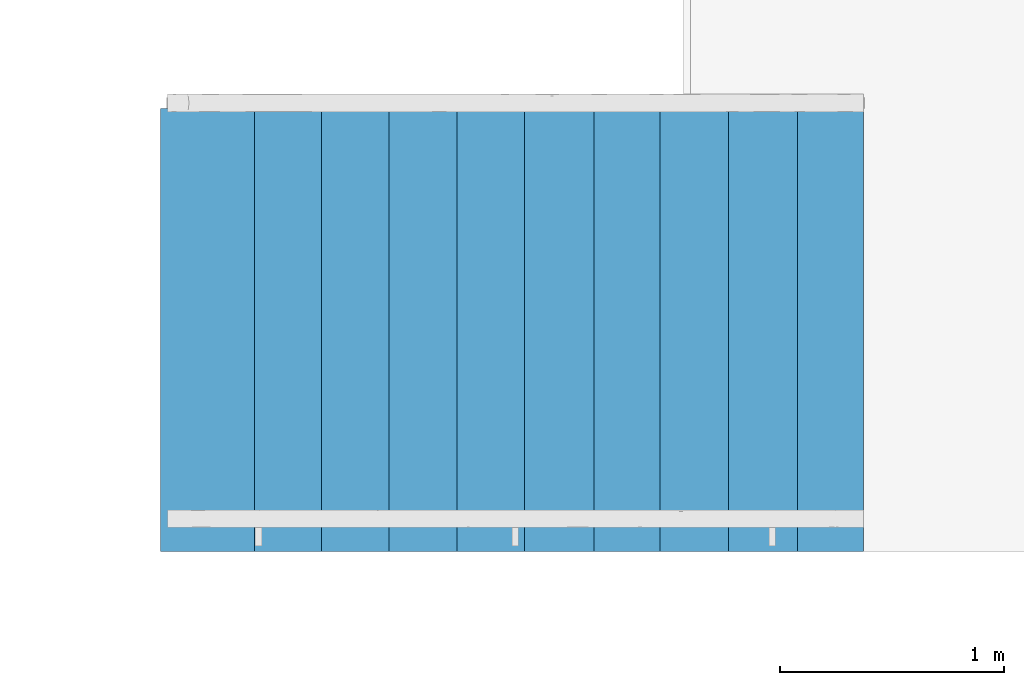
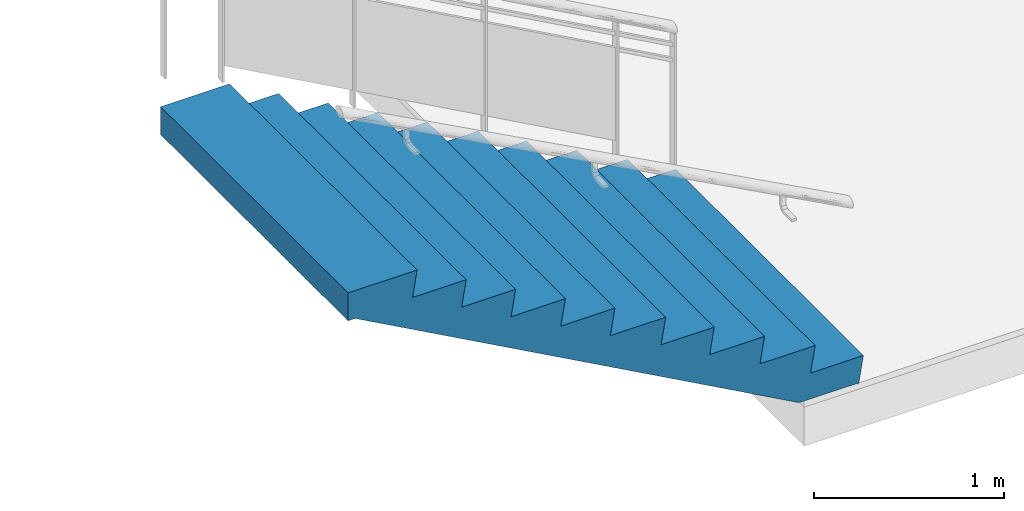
# One storey, part 15 of 19: 1 stair flight, 1 element without a shape of its own.
"""IFC4 building model written with IfcOpenShell, lengths in metres."""

from ifc_helpers import new_model, entity, si_unit, converted_unit, derived_unit, direction, frame, origin, place, context, subcontext, project, spatial, polygons, material, constituent, constituent_set, type_object, element, aggregate, save


model = new_model("IFC4")

# Units and contexts
model_context = context("Model", 3, precision=1e-05, world=origin(), true_north=direction((6.12303176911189e-17, 1.0)))
body_context = subcontext(model_context, "Body", "Model", "MODEL_VIEW")
ifc_project = project(units=[si_unit("LENGTHUNIT", "METRE"), si_unit("AREAUNIT", "SQUARE_METRE"), si_unit("VOLUMEUNIT", "CUBIC_METRE"), converted_unit("PLANEANGLEUNIT", "DEGREE", entity("IfcRatioMeasure", 0.0174532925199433), si_unit("PLANEANGLEUNIT", "RADIAN"), dimensions=[0, 0, 0, 0, 0, 0, 0]), si_unit("MASSUNIT", "GRAM", prefix="KILO"), derived_unit("MASSDENSITYUNIT", [(si_unit("MASSUNIT", "GRAM", prefix="KILO"), 1), (si_unit("LENGTHUNIT", "METRE"), -3)]), derived_unit("MOMENTOFINERTIAUNIT", [(si_unit("LENGTHUNIT", "METRE"), 4)]), si_unit("TIMEUNIT", "SECOND"), si_unit("FREQUENCYUNIT", "HERTZ"), si_unit("THERMODYNAMICTEMPERATUREUNIT", "DEGREE_CELSIUS"), derived_unit("THERMALTRANSMITTANCEUNIT", [(si_unit("MASSUNIT", "GRAM", prefix="KILO"), 1), (si_unit("THERMODYNAMICTEMPERATUREUNIT", "KELVIN"), -1), (si_unit("TIMEUNIT", "SECOND"), -3)]), derived_unit("VOLUMETRICFLOWRATEUNIT", [(si_unit("LENGTHUNIT", "METRE"), 3), (si_unit("TIMEUNIT", "SECOND"), -1)]), si_unit("ELECTRICCURRENTUNIT", "AMPERE"), si_unit("ELECTRICVOLTAGEUNIT", "VOLT"), si_unit("POWERUNIT", "WATT"), si_unit("FORCEUNIT", "NEWTON", prefix="KILO"), si_unit("ILLUMINANCEUNIT", "LUX"), si_unit("LUMINOUSFLUXUNIT", "LUMEN"), si_unit("LUMINOUSINTENSITYUNIT", "CANDELA"), derived_unit("USERDEFINED", [(si_unit("MASSUNIT", "GRAM", prefix="KILO"), -1), (si_unit("LENGTHUNIT", "METRE"), -2), (si_unit("TIMEUNIT", "SECOND"), 3), (si_unit("LUMINOUSFLUXUNIT", "LUMEN"), 1)]), derived_unit("LINEARVELOCITYUNIT", [(si_unit("LENGTHUNIT", "METRE"), 1), (si_unit("TIMEUNIT", "SECOND"), -1)]), si_unit("PRESSUREUNIT", "PASCAL"), derived_unit("USERDEFINED", [(si_unit("LENGTHUNIT", "METRE"), -2), (si_unit("MASSUNIT", "GRAM", prefix="KILO"), 1), (si_unit("TIMEUNIT", "SECOND"), -2)]), derived_unit("LINEARFORCEUNIT", [(si_unit("MASSUNIT", "GRAM", prefix="KILO"), 1), (si_unit("LENGTHUNIT", "METRE"), 1), (si_unit("TIMEUNIT", "SECOND"), -2), (si_unit("LENGTHUNIT", "METRE"), -1)]), derived_unit("PLANARFORCEUNIT", [(si_unit("MASSUNIT", "GRAM", prefix="KILO"), 1), (si_unit("LENGTHUNIT", "METRE"), 1), (si_unit("TIMEUNIT", "SECOND"), -2), (si_unit("LENGTHUNIT", "METRE"), -2)])], contexts=[model_context])

# Site, building, storey
site_placement = place(None, origin())
site = spatial("IfcSite", under=ifc_project, at=site_placement, Name="Default", CompositionType="ELEMENT")
building_placement = place(site_placement, origin())
building = spatial("IfcBuilding", under=site, at=building_placement, Name="HOTEL CONSULAIRE BOULOGNE SUR MER", CompositionType="ELEMENT")
storey_placement = place(building_placement, frame((0.0, 0.0, -4.01003075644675)))
storey = spatial("IfcBuildingStorey", under=building, at=storey_placement, Name="SS2", CompositionType="ELEMENT", Elevation=-4.01003075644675)

# Stair, stair flight
stair_type = type_object("IfcStairType", Name="Escalier coulé sur place:Monobloc 7", PredefinedType="STRAIGHT_RUN_STAIR")
stair_placement = place(storey_placement, origin())
stair = element("IfcStair", 1, at=stair_placement, inside=storey, type_object=stair_type, Name="Escalier coulé sur place:Escalier", ObjectType="Escalier coulé sur place:Monobloc 7", PredefinedType="STRAIGHT_RUN_STAIR")
ifc_material_1 = material(Name="marbre beige")
ifc_constituent_1 = constituent(ifc_material_1, Name="marbre beige", Category="Matériaux")
ifc_material_2 = material(Name="Maçonnerie - Béton", Category="Béton")
ifc_constituent_2 = constituent(ifc_material_2, Name="Maçonnerie - Béton", Category="Matériaux")
ifc_constituent_set = constituent_set(constituents=[ifc_constituent_1, ifc_constituent_2], Name="MaterialConstituentSet")
stair_flight_type = type_object("IfcStairFlightType", Name="Volée monobloc:Profondeur de structure 170 mm 3", PredefinedType="NOTDEFINED")
stair_flight_placement = place(stair_placement, frame((-2.16392711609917, -27.946273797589, 0.0)))
stair_flight = element("IfcStairFlight", 2, at=stair_flight_placement, type_object=stair_flight_type, material=ifc_constituent_set, Name="Escalier coulé sur place:Escalier:447979 Run 1", ObjectType="Volée monobloc:Profondeur de structure 170 mm 3", PredefinedType="NOTDEFINED", context=body_context, shape_type="Tessellation", body=[
    polygons([(3.13509033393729, 4.33146851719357e-15, -0.193340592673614), (3.1350903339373, 1.97551778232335, -0.193340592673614), (2.81132610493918, 1.97551778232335, -0.193340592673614), (2.81132610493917, 0.0, -0.193340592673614), (3.1050903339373, 0.0, -0.203340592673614), (2.81132610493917, 0.0, -0.203340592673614), (2.81132610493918, 1.97551778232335, -0.203340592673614), (3.1050903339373, 1.97551778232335, -0.203340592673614), (3.1050903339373, 0.0, -0.374340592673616), (3.1050903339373, 1.97551778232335, -0.374340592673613)], [[[3, 4, 1, 2]], [[8, 5, 6, 7]], [[1, 4, 6, 5, 9]], [[3, 2, 10, 8, 7]], [[4, 3, 7, 6]], [[8, 10, 9, 5]], [[10, 2, 1, 9]]], closed=True),
    polygons([(2.84132610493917, 4.33146851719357e-15, -0.0266811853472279), (2.84132610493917, 1.97551778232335, -0.0266811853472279), (2.50368446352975, 1.97551778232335, -0.0266811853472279), (2.50368446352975, 0.0, -0.0266811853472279), (2.81132610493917, 0.0, -0.0366811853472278), (2.50368446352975, 0.0, -0.0366811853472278), (2.50368446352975, 1.97551778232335, -0.0366811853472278), (2.81132610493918, 1.97551778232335, -0.0366811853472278), (2.81132610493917, 0.0, -0.20768118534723), (2.81132610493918, 1.97551778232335, -0.207681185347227)], [[[3, 4, 1, 2]], [[8, 5, 6, 7]], [[1, 4, 6, 5, 9]], [[3, 2, 10, 8, 7]], [[4, 3, 7, 6]], [[8, 10, 9, 5]], [[10, 2, 1, 9]]], closed=True),
    polygons([(2.53368446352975, 0.0, 0.139978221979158), (2.53368446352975, 1.97551778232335, 0.139978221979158), (2.19726987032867, 1.97551778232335, 0.139978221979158), (2.19726987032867, 0.0, 0.139978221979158), (2.50368446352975, 0.0, 0.129978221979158), (2.19726987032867, 0.0, 0.129978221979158), (2.19726987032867, 1.97551778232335, 0.129978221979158), (2.50368446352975, 1.97551778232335, 0.129978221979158), (2.50368446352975, 0.0, -0.0410217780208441), (2.50368446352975, 1.97551778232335, -0.0410217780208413)], [[[3, 4, 1, 2]], [[8, 5, 6, 7]], [[1, 4, 6, 5, 9]], [[3, 2, 10, 8, 7]], [[4, 3, 7, 6]], [[8, 10, 9, 5]], [[10, 2, 1, 9]]], closed=True),
    polygons([(2.22726987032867, 0.0, 0.306637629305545), (2.22726987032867, 1.97551778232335, 0.306637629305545), (1.90230911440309, 1.97551778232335, 0.306637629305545), (1.90230911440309, 4.33146851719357e-15, 0.306637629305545), (2.19726987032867, 0.0, 0.296637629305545), (1.90230911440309, 4.33146851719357e-15, 0.296637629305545), (1.90230911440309, 1.97551778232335, 0.296637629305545), (2.19726987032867, 1.97551778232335, 0.296637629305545), (2.19726987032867, 4.33146851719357e-15, 0.125637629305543), (2.19726987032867, 1.97551778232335, 0.125637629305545)], [[[3, 4, 1, 2]], [[8, 5, 6, 7]], [[1, 4, 6, 5, 9]], [[3, 2, 10, 8, 7]], [[4, 3, 7, 6]], [[8, 10, 9, 5]], [[10, 2, 1, 9]]], closed=True),
    polygons([(1.93230911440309, 8.66293703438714e-15, 0.473297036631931), (1.93230911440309, 1.97551778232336, 0.473297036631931), (1.59318936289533, 1.97551778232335, 0.473297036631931), (1.59318936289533, 4.33146851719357e-15, 0.473297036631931), (1.90230911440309, 4.33146851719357e-15, 0.463297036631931), (1.59318936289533, 4.33146851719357e-15, 0.463297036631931), (1.59318936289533, 1.97551778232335, 0.463297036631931), (1.90230911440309, 1.97551778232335, 0.463297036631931), (1.90230911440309, 4.33146851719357e-15, 0.292297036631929), (1.90230911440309, 1.97551778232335, 0.292297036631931)], [[[3, 4, 1, 2]], [[8, 5, 6, 7]], [[1, 4, 6, 5, 9]], [[3, 2, 10, 8, 7]], [[4, 3, 7, 6]], [[8, 10, 9, 5]], [[10, 2, 1, 9]]], closed=True),
    polygons([(1.62318936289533, 8.66293703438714e-15, 0.639956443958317), (1.62318936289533, 1.97551778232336, 0.639956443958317), (1.29199887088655, 1.97551778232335, 0.639956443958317), (1.29199887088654, 4.33146851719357e-15, 0.639956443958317), (1.59318936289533, 4.33146851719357e-15, 0.629956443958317), (1.29199887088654, 4.33146851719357e-15, 0.629956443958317), (1.29199887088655, 1.97551778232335, 0.629956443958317), (1.59318936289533, 1.97551778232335, 0.629956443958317), (1.59318936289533, 4.33146851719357e-15, 0.458956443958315), (1.59318936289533, 1.97551778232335, 0.458956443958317)], [[[3, 4, 1, 2]], [[8, 5, 6, 7]], [[1, 4, 6, 5, 9]], [[3, 2, 10, 8, 7]], [[4, 3, 7, 6]], [[8, 10, 9, 5]], [[10, 2, 1, 9]]], closed=True),
    polygons([(1.32199887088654, 4.33146851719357e-15, 0.806615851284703), (1.32199887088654, 1.97551778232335, 0.806615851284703), (0.989046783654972, 1.97551778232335, 0.806615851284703), (0.989046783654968, 4.33146851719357e-15, 0.806615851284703), (1.29199887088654, 4.33146851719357e-15, 0.796615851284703), (0.989046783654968, 4.33146851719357e-15, 0.796615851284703), (0.989046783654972, 1.97551778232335, 0.796615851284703), (1.29199887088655, 1.97551778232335, 0.796615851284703), (1.29199887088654, 4.33146851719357e-15, 0.625615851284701), (1.29199887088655, 1.97551778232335, 0.625615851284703)], [[[3, 4, 1, 2]], [[8, 5, 6, 7]], [[1, 4, 6, 5, 9]], [[3, 2, 10, 8, 7]], [[4, 3, 7, 6]], [[8, 10, 9, 5]], [[10, 2, 1, 9]]], closed=True),
    polygons([(1.01904678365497, 4.33146851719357e-15, 0.973275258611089), (1.01904678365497, 1.97551778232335, 0.973275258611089), (0.688799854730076, 1.97551778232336, 0.973275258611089), (0.688799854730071, 8.66293703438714e-15, 0.973275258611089), (0.989046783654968, 4.33146851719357e-15, 0.963275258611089), (0.688799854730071, 8.66293703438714e-15, 0.963275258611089), (0.688799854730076, 1.97551778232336, 0.963275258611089), (0.989046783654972, 1.97551778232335, 0.963275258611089), (0.989046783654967, 8.66293703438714e-15, 0.792275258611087), (0.989046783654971, 1.97551778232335, 0.792275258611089)], [[[3, 4, 1, 2]], [[8, 5, 6, 7]], [[1, 4, 6, 5, 9]], [[3, 2, 10, 8, 7]], [[4, 3, 7, 6]], [[8, 10, 9, 5]], [[10, 2, 1, 9]]], closed=True),
    polygons([(0.718799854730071, 1.29944055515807e-14, 1.13993466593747), (0.718799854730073, 1.97551778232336, 1.13993466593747), (0.390000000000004, 1.97551778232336, 1.13993466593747), (0.39, 8.66293703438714e-15, 1.13993466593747), (0.688799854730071, 8.66293703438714e-15, 1.12993466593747), (0.39, 8.66293703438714e-15, 1.12993466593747), (0.390000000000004, 1.97551778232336, 1.12993466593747), (0.688799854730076, 1.97551778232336, 1.12993466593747), (0.688799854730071, 8.66293703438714e-15, 0.958934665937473), (0.688799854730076, 1.97551778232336, 0.958934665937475)], [[[3, 4, 1, 2]], [[8, 5, 6, 7]], [[1, 4, 6, 5, 9]], [[3, 2, 10, 8, 7]], [[4, 3, 7, 6]], [[8, 10, 9, 5]], [[10, 2, 1, 9]]], closed=True),
    polygons([(0.42, 1.29944055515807e-14, 1.30659407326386), (0.420000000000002, 1.97551778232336, 1.30659407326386), (4.33146851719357e-15, 1.97551778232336, 1.30659407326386), (0.0, 8.66293703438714e-15, 1.30659407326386), (0.39, 8.66293703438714e-15, 1.29659407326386), (0.0, 8.66293703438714e-15, 1.29659407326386), (4.33146851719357e-15, 1.97551778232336, 1.29659407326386), (0.390000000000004, 1.97551778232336, 1.29659407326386), (0.39, 8.66293703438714e-15, 1.12559407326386), (0.390000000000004, 1.97551778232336, 1.12559407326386)], [[[3, 4, 1, 2]], [[8, 5, 6, 7]], [[1, 4, 6, 5, 9]], [[3, 2, 10, 8, 7]], [[4, 3, 7, 6]], [[8, 10, 9, 5]], [[10, 2, 1, 9]]], closed=True),
    polygons([(2.81132610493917, 0.0, -0.203340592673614), (3.1050903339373, 0.0, -0.203340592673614), (3.1050903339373, 1.97551778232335, -0.203340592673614), (2.81132610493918, 1.97551778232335, -0.203340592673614), (2.81132610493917, 0.0, -0.36), (3.1050903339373, 0.0, -0.36), (3.1050903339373, 1.97551778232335, -0.36), (2.81132610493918, 1.97551778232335, -0.36), (2.81132610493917, 0.0, -0.0366811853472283), (2.81132610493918, 1.97551778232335, -0.0366811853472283), (2.76761605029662, 1.97551778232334, -0.0366811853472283), (2.50368446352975, 1.97551778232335, -0.0366811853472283), (2.50368446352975, 0.0, -0.0366811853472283), (2.76761605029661, 0.0, -0.0366811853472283), (2.50368446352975, 0.0, -0.228009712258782), (2.74338855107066, 0.0, -0.36), (2.76761605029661, 0.0, -0.36), (2.76761605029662, 1.97551778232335, -0.36), (2.74338855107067, 1.97551778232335, -0.359999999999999), (2.50368446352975, 1.97551778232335, -0.228009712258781), (2.19726987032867, 0.0, 0.129978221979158), (2.50368446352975, 0.0, 0.129978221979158), (2.50368446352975, 1.97551778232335, 0.129978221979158), (2.19726987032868, 1.97551778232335, 0.129978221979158), (2.19726987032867, 0.0, -0.0592860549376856), (2.19726987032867, 1.97551778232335, -0.0592860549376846), (1.90230911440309, 4.33146851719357e-15, 0.296637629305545), (2.19726987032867, 0.0, 0.296637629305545), (2.19726987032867, 1.97551778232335, 0.296637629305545), (1.90230911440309, 1.97551778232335, 0.296637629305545), (1.90230911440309, 4.33146851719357e-15, 0.103130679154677), (1.90230911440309, 1.97551778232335, 0.103130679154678), (1.59318936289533, 4.33146851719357e-15, 0.463297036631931), (1.90230911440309, 4.33146851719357e-15, 0.463297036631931), (1.90230911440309, 1.97551778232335, 0.463297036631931), (1.59318936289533, 1.97551778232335, 0.463297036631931), (1.59318936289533, 4.33146851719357e-15, 0.273343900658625), (1.59318936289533, 1.97551778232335, 0.273343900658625), (1.29199887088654, 4.33146851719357e-15, 0.629956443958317), (1.59318936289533, 4.33146851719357e-15, 0.629956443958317), (1.59318936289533, 1.97551778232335, 0.629956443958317), (1.29199887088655, 1.97551778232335, 0.629956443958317), (1.29199887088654, 4.33146851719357e-15, 0.439190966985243), (1.29199887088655, 1.97551778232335, 0.439190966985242), (0.989046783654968, 4.33146851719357e-15, 0.796615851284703), (1.29199887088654, 4.33146851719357e-15, 0.796615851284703), (1.29199887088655, 1.97551778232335, 0.796615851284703), (0.989046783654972, 1.97551778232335, 0.796615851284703), (0.989046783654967, 4.33146851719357e-15, 0.606008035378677), (0.989046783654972, 1.97551778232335, 0.606008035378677), (0.688799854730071, 8.66293703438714e-15, 0.963275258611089), (0.989046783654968, 4.33146851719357e-15, 0.963275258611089), (0.989046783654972, 1.97551778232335, 0.963275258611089), (0.688799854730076, 1.97551778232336, 0.963275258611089), (0.688799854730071, 8.66293703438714e-15, 0.771335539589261), (0.688799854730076, 1.97551778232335, 0.77133553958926), (0.39, 8.66293703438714e-15, 1.12993466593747), (0.688799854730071, 8.66293703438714e-15, 1.12993466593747), (0.688799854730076, 1.97551778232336, 1.12993466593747), (0.390000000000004, 1.97551778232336, 1.12993466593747), (0.39, 8.66293703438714e-15, 0.935866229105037), (0.390000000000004, 1.97551778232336, 0.935866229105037), (0.0436241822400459, 8.66293703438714e-15, 1.12659407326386), (0.0436241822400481, 1.97551778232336, 1.12659407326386), (0.0, 8.66293703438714e-15, 1.12659407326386), (4.33146851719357e-15, 1.97551778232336, 1.12659407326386), (0.39, 8.66293703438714e-15, 1.29659407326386), (0.390000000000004, 1.97551778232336, 1.29659407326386), (0.043624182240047, 1.97551778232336, 1.29659407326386), (4.33146851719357e-15, 1.97551778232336, 1.29659407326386), (0.0, 8.66293703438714e-15, 1.29659407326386), (0.0436241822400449, 8.66293703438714e-15, 1.29659407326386)], [[[4, 1, 2, 3]], [[12, 13, 14, 9, 10, 11]], [[24, 21, 22, 23]], [[30, 27, 28, 29]], [[36, 33, 34, 35]], [[42, 39, 40, 41]], [[48, 45, 46, 47]], [[54, 51, 52, 53]], [[60, 57, 58, 59]], [[69, 70, 71, 72, 67, 68]], [[2, 1, 9, 14, 13, 22, 21, 28, 27, 34, 33, 40, 39, 46, 45, 52, 51, 58, 57, 67, 72, 71, 65, 63, 61, 55, 49, 43, 37, 31, 25, 15, 16, 17, 5, 6]], [[3, 2, 6, 7]], [[10, 9, 1, 4]], [[23, 22, 13, 12]], [[29, 28, 21, 24]], [[35, 34, 27, 30]], [[41, 40, 33, 36]], [[47, 46, 39, 42]], [[53, 52, 45, 48]], [[59, 58, 51, 54]], [[68, 67, 57, 60]], [[4, 3, 7, 8, 18, 19, 20, 26, 32, 38, 44, 50, 56, 62, 64, 66, 70, 69, 68, 60, 59, 54, 53, 48, 47, 42, 41, 36, 35, 30, 29, 24, 23, 12, 11, 10]], [[19, 18, 8, 7, 6, 5, 17, 16]], [[64, 63, 65, 66]], [[61, 63, 64, 62, 56, 50, 44, 38, 32, 26, 20, 19, 16, 15, 25, 31, 37, 43, 49, 55]], [[71, 70, 66, 65]]], closed=True),
])
aggregate(stair, [stair_flight])

save(model, "model.ifc")
